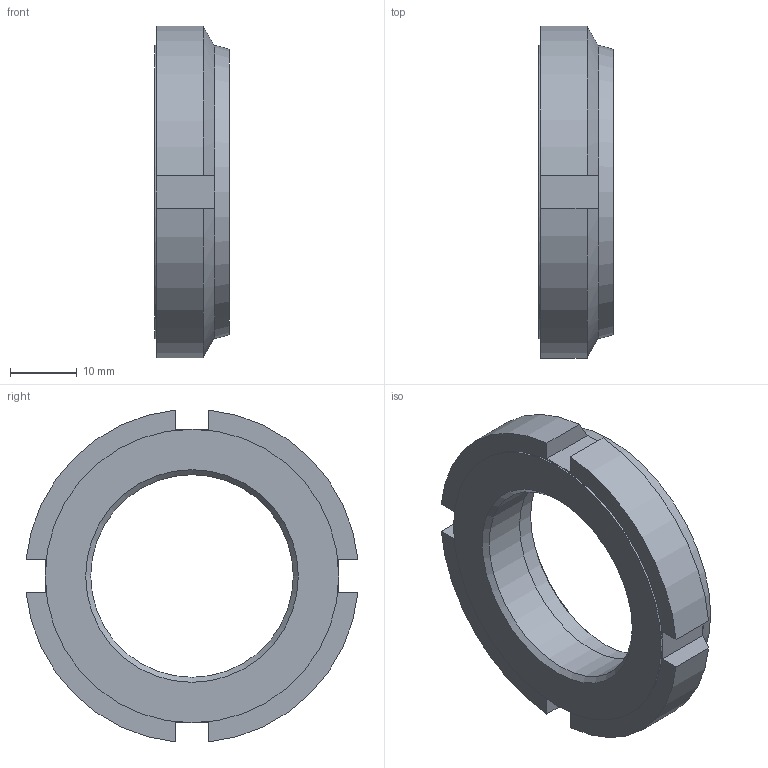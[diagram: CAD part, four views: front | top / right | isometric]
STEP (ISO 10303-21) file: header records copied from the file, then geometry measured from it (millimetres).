
FILE_DESCRIPTION( ( 'STEP AP203' ), '1' );
FILE_NAME( 'C:/Temp/Ganter_Step_05_03_2020/data/3_2/gn1804_1/Slotted locknut self-locking GN 1804.1-M32x1,5.stp', '2020-03-13T05:25:16', ( 'License CC BY-ND 4.0' ), ( 'CADENAS' ), ' ', 'PARTsolutions', ' ' );
FILE_SCHEMA( ( 'CONFIG_CONTROL_DESIGN' ) );
Length unit declared in the file: millimetre
Products named in the file (1): _Slotted locknut self-locking GN 1804.1-M32x1,5
Bounding box: 11.1 x 49.75 x 49.75 mm (x, y, z)
Volume: 11351.6 mm3; surface area: 5022.3 mm2
Topology: 1 solids, 1 shells, 34 faces, 79 edges, 49 vertices
Faces by surface type: plane 20, cylinder 8, cone 6
Full cylindrical faces by diameter (mm): 30.376 x1, 31.5 x1, 34 x1, 44 x1
Entity records: 1018 total; most frequent: CARTESIAN_POINT 229, DIRECTION 152, ORIENTED_EDGE 146, EDGE_CURVE 73, AXIS2_PLACEMENT_3D 60, VERTEX_POINT 49, EDGE_LOOP 44, FACE_OUTER_BOUND 38
